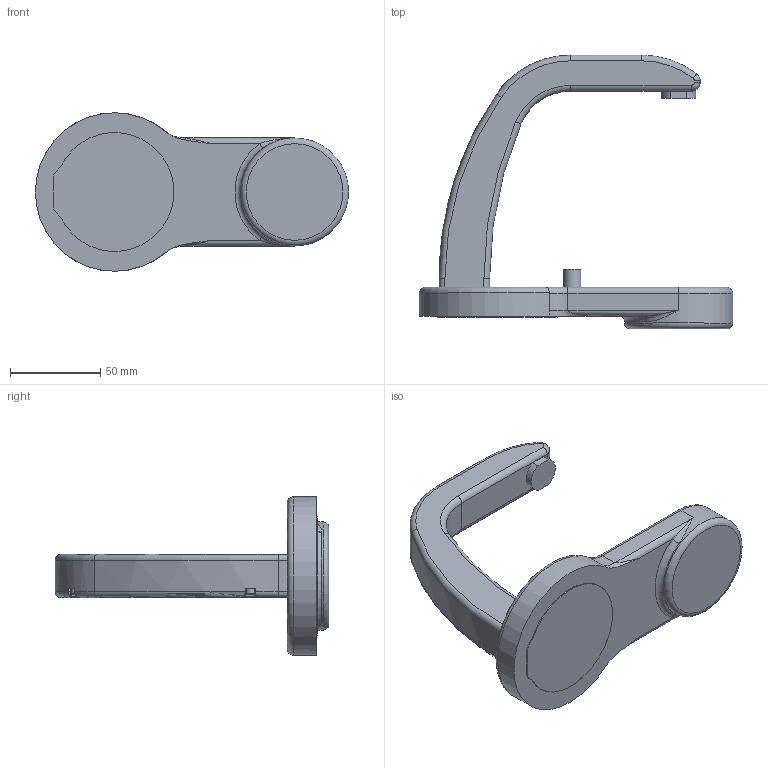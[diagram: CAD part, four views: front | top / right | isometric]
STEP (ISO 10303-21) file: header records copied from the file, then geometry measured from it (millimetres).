
FILE_DESCRIPTION(/* description */ (''),/* implementation_level */ '2;1');
FILE_NAME(/* name */ 'Proximal link assembly_Shrinkwrap_1.stp',/* time_stamp */ '2023-09-11T10:15:09-04:00',/* author */ ('Jonathan'),/* organization */ (''),/* preprocessor_version */ 'ST-DEVELOPER v19.2',/* originating_system */ 'Autodesk Inventor 2024',/* authorisation */ '');
FILE_SCHEMA (('AUTOMOTIVE_DESIGN { 1 0 10303 214 3 1 1 }'));
Length unit declared in the file: inch
Products named in the file (1): Proximal link assembly_Shrinkwrap_1
Bounding box: 174 x 152 x 88 mm (x, y, z)
Volume: 277102.4 mm3; surface area: 51685.3 mm2
Topology: 1 solids, 1 shells, 139 faces, 343 edges, 211 vertices
Faces by surface type: cylinder 47, plane 47, torus 25, bspline 13, cone 7
Full cylindrical faces by diameter (mm): 2.459 x2, 5.5 x3, 6.5 x1, 9.525 x1, 10.16 x1, 51 x1, 60 x1
Entity records: 4885 total; most frequent: CARTESIAN_POINT 1459, DIRECTION 696, ORIENTED_EDGE 672, EDGE_CURVE 336, AXIS2_PLACEMENT_3D 282, VERTEX_POINT 211, CIRCLE 153, EDGE_LOOP 151
